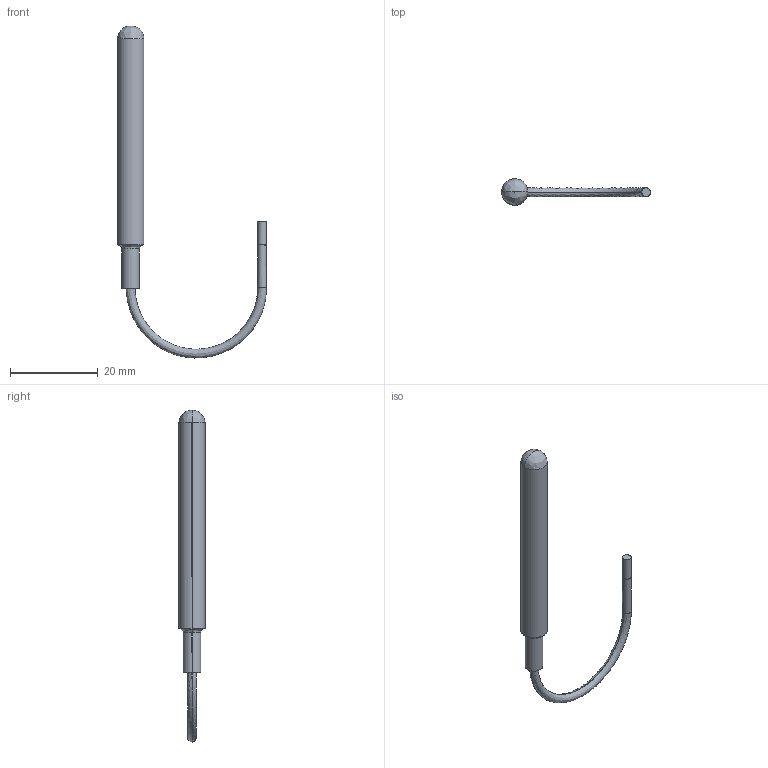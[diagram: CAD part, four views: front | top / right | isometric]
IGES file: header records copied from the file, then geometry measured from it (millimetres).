
Start section: SolidWorks IGES file using analytic representation for surfaces
Global section: file name: D:\data\Project\5.Suhu Ruangan\4. 3D desain\ds18b20.IGS; native system: SolidWorks 2017; preprocessor: SolidWorks 2017; author: faiz; date: 220928.093423; units: millimetre
Bounding box: 34 x 6 x 75.81 mm (x, y, z)
Surface area: 1486.7 mm2 (no closed solid volume)
Topology: 0 solids, 0 shells, 20 faces, 272 edges, 272 vertices
Faces by surface type: bspline 14, revolution 6
